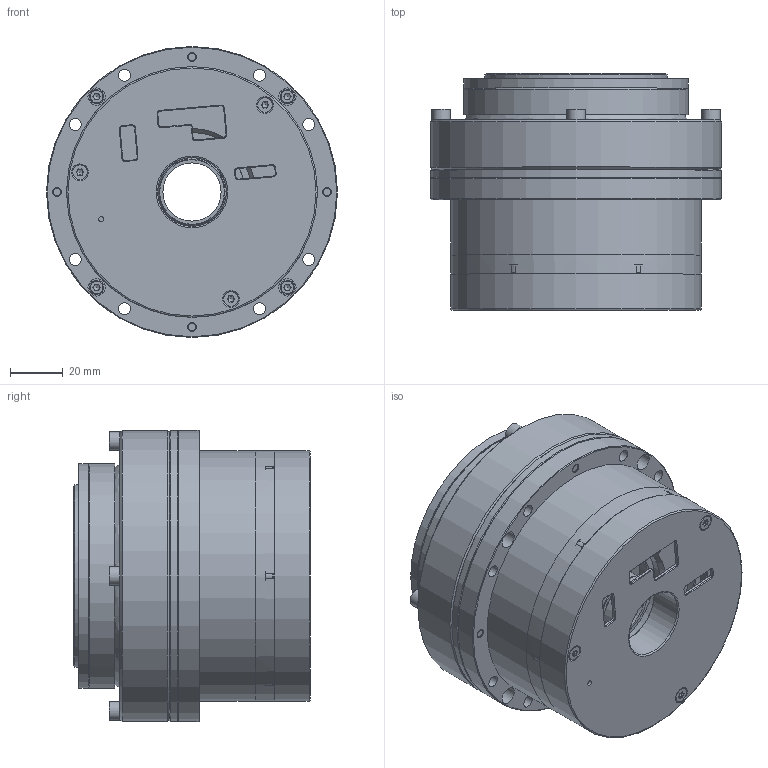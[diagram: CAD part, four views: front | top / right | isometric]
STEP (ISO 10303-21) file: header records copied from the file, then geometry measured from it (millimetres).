
FILE_DESCRIPTION (( 'STEP AP203' ), '1' );
FILE_NAME ('RH-25-100-E-N-D.STEP', '2026-01-08T09:38:50', ( '' ), ( '' ), 'SwSTEP 2.0', 'SolidWorks 2020', '' );
FILE_SCHEMA (( 'CONFIG_CONTROL_DESIGN' ));
Length unit declared in the file: millimetre
Products named in the file (10): 8MT.013.062（RH-25 驱动器盖-ECAT）; GB╱T 70.1-2008[内六角圆柱头螺钉M4×30]_M4×30; GB╱T 2673.1-2018[内六角花形沉头螺钉M2-M4M3×12]_M3×12; GB╱T 70.3-2008[内六角沉头螺钉M3×16]_M3×16; 8MT.034.004（RH-25 机座）-螺纹孔; 8MT.013.013（RH-25 端盖）; WHS-25-XX-I_Default<偌樓馱>; RH-25-100-E-N-D; 8MT.013.048（RH-25 减速机密封盖-双编）_Default<按加工>; GB╱T 70.1-2008[内六角圆柱头螺钉M3×12]_M3×12
Assembly tree (20 placements, depth 2):
  RH-25-100-E-N-D
    8MT.013.013（RH-25 端盖）
    8MT.013.048（RH-25 减速机密封盖-双编）_Default<按加工>
    8MT.013.062（RH-25 驱动器盖-ECAT）
    8MT.034.004（RH-25 机座）-螺纹孔
    GB╱T 2673.1-2018[内六角花形沉头螺钉M2-M4M3×12]_M3×12  x3
    GB╱T 70.1-2008[内六角圆柱头螺钉M3×12]_M3×12  x6
    GB╱T 70.1-2008[内六角圆柱头螺钉M4×30]_M4×30  x4
    GB╱T 70.3-2008[内六角沉头螺钉M3×16]_M3×16  x2
    WHS-25-XX-I_Default<偌樓馱>
Bounding box: 110 x 89.5 x 110 mm (x, y, z)
Volume: 309591 mm3; surface area: 217770.8 mm2
Topology: 44 solids, 44 shells, 1235 faces, 2976 edges, 1889 vertices
Faces by surface type: plane 457, cylinder 421, cone 268, torus 54, bspline 35
Full cylindrical faces by diameter (mm): 1.6 x3, 1.9 x1, 2.05 x1, 2.5 x33, 2.677 x3, 2.9 x1, 3 x23, 3.3 x20, 3.4 x23, 3.5 x4, 4 x4, 4.4 x16, 4.5 x49, 5 x1, 5.2 x4, 5.5 x17, 6 x8, 6.5 x8, 6.72 x2, 7 x4, 22 x1, 25 x1, 26 x3, 29 x1, 40 x2, 41 x1, 44 x2, 45 x1, 45.212 x1, 46.1 x1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
Entity records: 31988 total; most frequent: CARTESIAN_POINT 8134, DIRECTION 4846, ORIENTED_EDGE 3806, AXIS2_PLACEMENT_3D 2095, EDGE_CURVE 1903, EDGE_LOOP 1866, VERTEX_POINT 1465, FACE_OUTER_BOUND 1353
